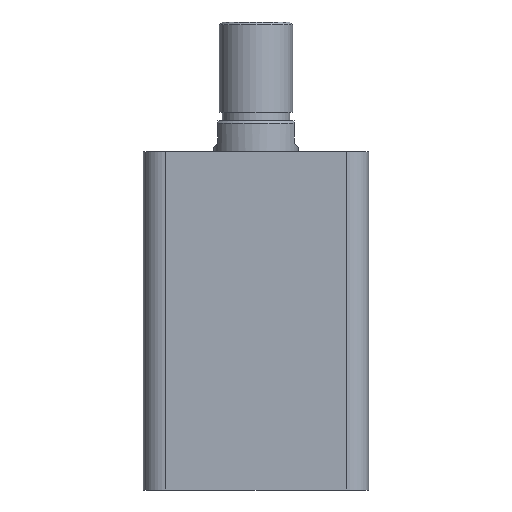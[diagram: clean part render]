
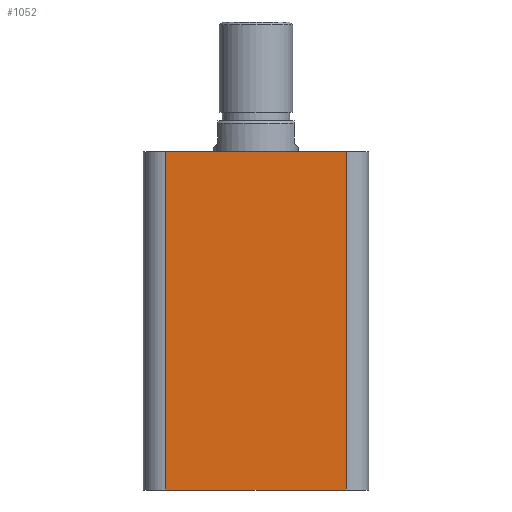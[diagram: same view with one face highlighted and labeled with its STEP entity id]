
A CAD part, front view. The second image highlights one B-rep face of the part: STEP entity #1052.
In plain terms, the highlighted planar face has unit normal (0, -1, 0).
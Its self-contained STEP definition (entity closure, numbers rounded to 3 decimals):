
#101 = FACE_OUTER_BOUND ( 'NONE', #1127, .T. ) ;
#294 = CARTESIAN_POINT ( 'NONE',  ( 32., -40., 120. ) ) ;
#296 = DIRECTION ( 'NONE',  ( 1., 0., 0. ) ) ;
#297 = CARTESIAN_POINT ( 'NONE',  ( -40., -40., 120. ) ) ;
#298 = DIRECTION ( 'NONE',  ( 0., 0., -1. ) ) ;
#300 = CARTESIAN_POINT ( 'NONE',  ( -32., -40., 120. ) ) ;
#301 = DIRECTION ( 'NONE',  ( 1., 0., 0. ) ) ;
#305 = CARTESIAN_POINT ( 'NONE',  ( -40., -40., 0. ) ) ;
#310 = DIRECTION ( 'NONE',  ( 0., 0., 1. ) ) ;
#324 = CARTESIAN_POINT ( 'NONE',  ( 32., -40., 120. ) ) ;
#427 = VERTEX_POINT ( 'NONE', #1807 ) ;
#435 = VERTEX_POINT ( 'NONE', #1799 ) ;
#459 = VERTEX_POINT ( 'NONE', #1696 ) ;
#468 = VERTEX_POINT ( 'NONE', #294 ) ;
#566 = VECTOR ( 'NONE', #296, 1000. ) ;
#570 = VECTOR ( 'NONE', #298, 1000. ) ;
#571 = LINE ( 'NONE', #297, #566 ) ;
#573 = VECTOR ( 'NONE', #301, 1000. ) ;
#575 = LINE ( 'NONE', #300, #570 ) ;
#577 = VECTOR ( 'NONE', #310, 1000. ) ;
#581 = LINE ( 'NONE', #324, #577 ) ;
#582 = LINE ( 'NONE', #305, #573 ) ;
#824 = EDGE_CURVE ( 'NONE', #427, #468, #581, .T. ) ;
#825 = EDGE_CURVE ( 'NONE', #459, #427, #582, .T. ) ;
#826 = EDGE_CURVE ( 'NONE', #435, #459, #575, .T. ) ;
#827 = EDGE_CURVE ( 'NONE', #435, #468, #571, .T. ) ;
#1052 = ADVANCED_FACE ( 'NONE', ( #101 ), #2429, .F. ) ;
#1127 = EDGE_LOOP ( 'NONE', ( #1386, #1385, #1384, #1383 ) ) ;
#1383 = ORIENTED_EDGE ( 'NONE', *, *, #824, .T. ) ;
#1384 = ORIENTED_EDGE ( 'NONE', *, *, #825, .T. ) ;
#1385 = ORIENTED_EDGE ( 'NONE', *, *, #826, .T. ) ;
#1386 = ORIENTED_EDGE ( 'NONE', *, *, #827, .F. ) ;
#1616 = AXIS2_PLACEMENT_3D ( 'NONE', #2435, #2427, #2426 ) ;
#1696 = CARTESIAN_POINT ( 'NONE',  ( -32., -40., 0. ) ) ;
#1799 = CARTESIAN_POINT ( 'NONE',  ( -32., -40., 120. ) ) ;
#1807 = CARTESIAN_POINT ( 'NONE',  ( 32., -40., 0. ) ) ;
#2426 = DIRECTION ( 'NONE',  ( 0., 0., 1. ) ) ;
#2427 = DIRECTION ( 'NONE',  ( 0., 1., 0. ) ) ;
#2429 = PLANE ( 'NONE',  #1616 ) ;
#2435 = CARTESIAN_POINT ( 'NONE',  ( -40., -40., 120. ) ) ;
